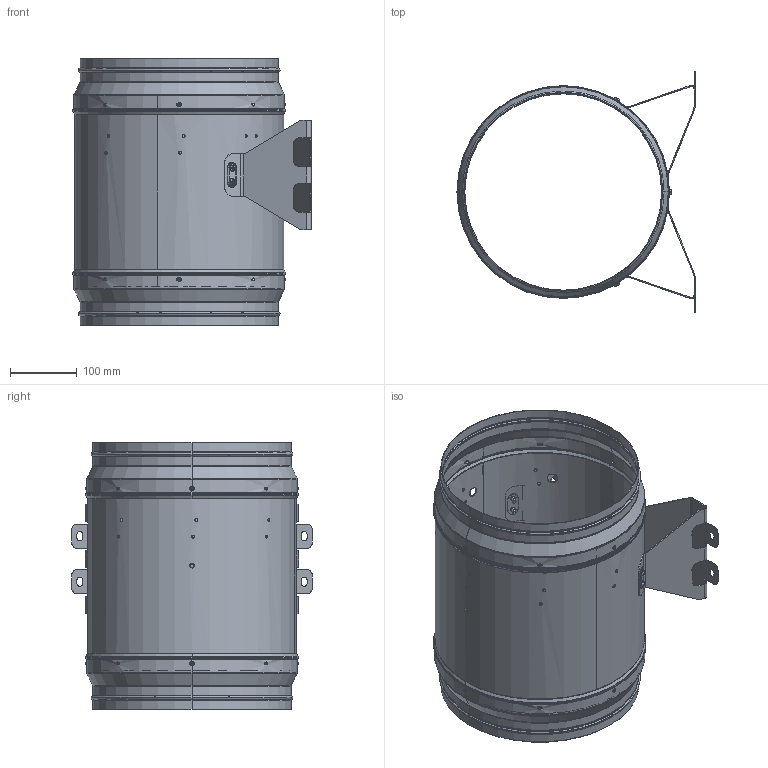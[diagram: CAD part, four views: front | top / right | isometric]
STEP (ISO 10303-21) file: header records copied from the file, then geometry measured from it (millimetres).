
FILE_DESCRIPTION((''),'2;1');
FILE_NAME('315300_1_0_ASM','2023-05-04T15:30:37',('Administrator'),(''),'CREO PARAMETRIC BY PTC INC, 2019010','CREO PARAMETRIC BY PTC INC, 2019010','');
FILE_SCHEMA(('CONFIG_CONTROL_DESIGN'));
Length unit declared in the file: millimetre
Products named in the file (20): 315_X2_8F6C_X0_300_OBJECTS_4; 315_X2_8F6C_X0_300_OBJECTS_19; 315_X2_8F6C_X0_300_OBJECTS_22; 315_X2_8F6C_X0_300_OBJECTS_24; 315_X2_8F6C_X0_300_OBJECTS_32; 315_X2_8F6C_X0_300_OBJECT_48; 315_X2_8F6C_X0_300_OBJEC_59; 315_X2_8F6C_X0_300_OBJE_62; 315_X2_8F6C_X0_300_OBJE_63; 315_X2_8F6C_X0_300_OB_80; 315_X2_8F6C_X0_300_OB_81; 315_X2_8F6C_X0_300_OB_86; 315_X2_8F6C_X0_300_O_90; 315_X2_8F6C_X0_300__101; 315_X2_8F6C_X0_300__104; 315_X2_8F6C_X0_300__105; 315_X2_8F6C_X0_300_114; 315_X2_8F6C_X0_300_115; 315_X2_8F6C_X0_300_OBJECTS_ASM; 315300_1_0_ASM
Assembly tree (19 placements, depth 3):
  315300_1_0_ASM
    315_X2_8F6C_X0_300_OBJECTS_ASM
      315_X2_8F6C_X0_300_OBJECTS_4
      315_X2_8F6C_X0_300_OBJECTS_19
      315_X2_8F6C_X0_300_OBJECTS_22
      315_X2_8F6C_X0_300_OBJECTS_24
      315_X2_8F6C_X0_300_OBJECTS_32
      315_X2_8F6C_X0_300_OBJECT_48
      315_X2_8F6C_X0_300_OBJEC_59
      315_X2_8F6C_X0_300_OBJE_62
      315_X2_8F6C_X0_300_OBJE_63
      315_X2_8F6C_X0_300_OB_80
      315_X2_8F6C_X0_300_OB_81
      315_X2_8F6C_X0_300_OB_86
      315_X2_8F6C_X0_300_O_90
      315_X2_8F6C_X0_300__101
      315_X2_8F6C_X0_300__104
      315_X2_8F6C_X0_300__105
      315_X2_8F6C_X0_300_114
      315_X2_8F6C_X0_300_115
Bounding box: 356.68 x 360 x 400 mm (x, y, z)
Volume: 544199.5 mm3; surface area: 1026372.4 mm2
Topology: 18 solids, 18 shells, 851 faces, 2436 edges, 1626 vertices
Faces by surface type: plane 321, cylinder 302, torus 152, bspline 52, cone 24
Entity records: 34539 total; most frequent: CARTESIAN_POINT 12118, ORIENTED_EDGE 4872, DIRECTION 4350, EDGE_CURVE 2436, AXIS2_PLACEMENT_3D 1693, VERTEX_POINT 1626, EDGE_LOOP 1006, VECTOR 964
